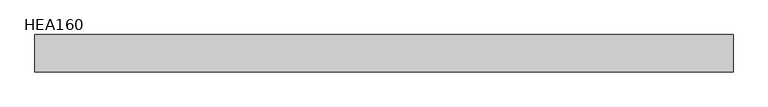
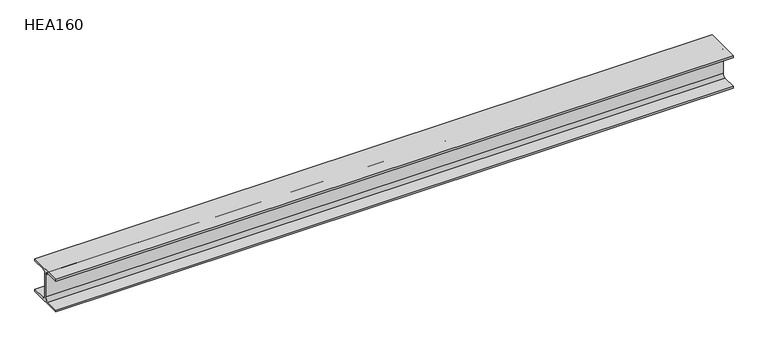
"""IFC4 building model written with IfcOpenShell, lengths in millimetres: beam geometry, HE-A : HEA160."""

from ifc_helpers import new_model, si_unit, point, frame, frame_2d, origin, place, context, project, spatial, polyline, circle_curve, trimmed, segment, composite_curve, outline, extrude, source, transform, mapped, element, save


def hea160_fb2920ae(model_context):
    return source(origin(), model_context, "Body", "SweptSolid", [
        extrude(outline(composite_curve([segment(polyline([(80.0, -67.0), (80.0, -76.0), (-80.0, -76.0), (-80.0, -67.0), (-18.0, -67.0)]), True, "CONTINUOUS"), segment(trimmed(circle_curve(frame_2d((-18.0, -52.0)), 15.0), [point((-18.0, -67.0))], [point((-3.0, -52.0))], True, "CARTESIAN"), True, "CONTINUOUS"), segment(polyline([(-3.0, -52.0), (-3.0, 52.0)]), True, "CONTINUOUS"), segment(trimmed(circle_curve(frame_2d((-18.0, 52.0)), 15.0), [point((-3.0, 52.0))], [point((-18.0, 67.0))], True, "CARTESIAN"), True, "CONTINUOUS"), segment(polyline([(-18.0, 67.0), (-80.0, 67.0), (-80.0, 76.0), (80.0, 76.0), (80.0, 67.0), (18.0, 67.0)]), True, "CONTINUOUS"), segment(trimmed(circle_curve(frame_2d((18.0, 52.0)), 15.0), [point((18.0, 67.0))], [point((3.0, 52.0))], True, "CARTESIAN"), True, "CONTINUOUS"), segment(polyline([(3.0, 52.0), (3.0, -52.0)]), True, "CONTINUOUS"), segment(trimmed(circle_curve(frame_2d((18.0, -52.0)), 15.0), [point((3.0, -52.0))], [point((18.0, -67.0))], True, "CARTESIAN"), True, "CONTINUOUS"), segment(polyline([(18.0, -67.0), (80.0, -67.0)]), True, "CONTINUOUS")], self_intersect=False)), frame((-1520.8, 0.0, 0.0), z_axis=(1.0, 0.0, 0.0), x_axis=(0.0, 1.0, 0.0)), (0.0, 0.0, 1.0), 2993.4),
    ])


if __name__ == "__main__":
    model = new_model("IFC4")
    model_context = context("Model", 3, world=origin())
    ifc_project = project(units=[si_unit("LENGTHUNIT", "METRE", prefix="MILLI")], contexts=[model_context])
    site = spatial("IfcSite", under=ifc_project)
    building = spatial("IfcBuilding", under=site)
    placement = place(None, origin())
    hea160_shape = hea160_fb2920ae(model_context)
    element("IfcBeam", 1, ObjectType="HE-A : HEA160", at=placement, inside=building, context=model_context, shape_type="MappedRepresentation", body=[
        mapped(hea160_shape, transform((0.0, 0.0, 0.0), x_axis=(1.0, 0.0, 0.0), y_axis=(0.0, 1.0, 0.0), z_axis=(0.0, 0.0, 1.0))),
    ])
    save(model, "model.ifc")
